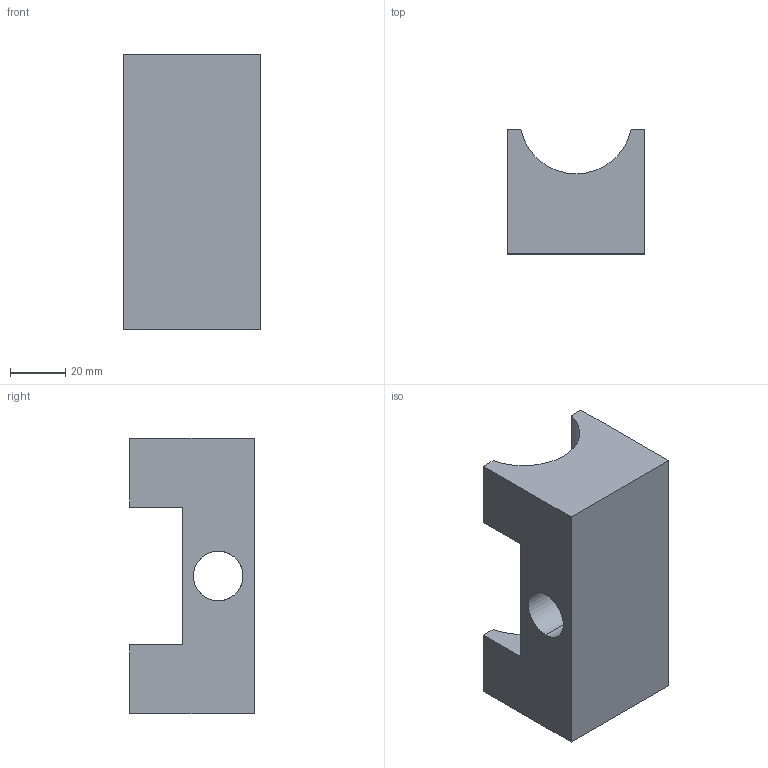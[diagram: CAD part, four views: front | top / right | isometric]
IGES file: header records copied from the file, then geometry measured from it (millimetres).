
Start section: SolidWorks IGES file using analytic representation for surfaces
Global section: file name: C:\Users\Dieudonné\Desktop\patin guidage 40.IGS; native system: SolidWorks 2016; preprocessor: SolidWorks 2016; author: Dieudonné; date: 160216.131012; units: millimetre
Bounding box: 50 x 45 x 100 mm (x, y, z)
Surface area: 24676.4 mm2 (no closed solid volume)
Topology: 0 solids, 0 shells, 16 faces, 204 edges, 204 vertices
Faces by surface type: bspline 12, revolution 4
